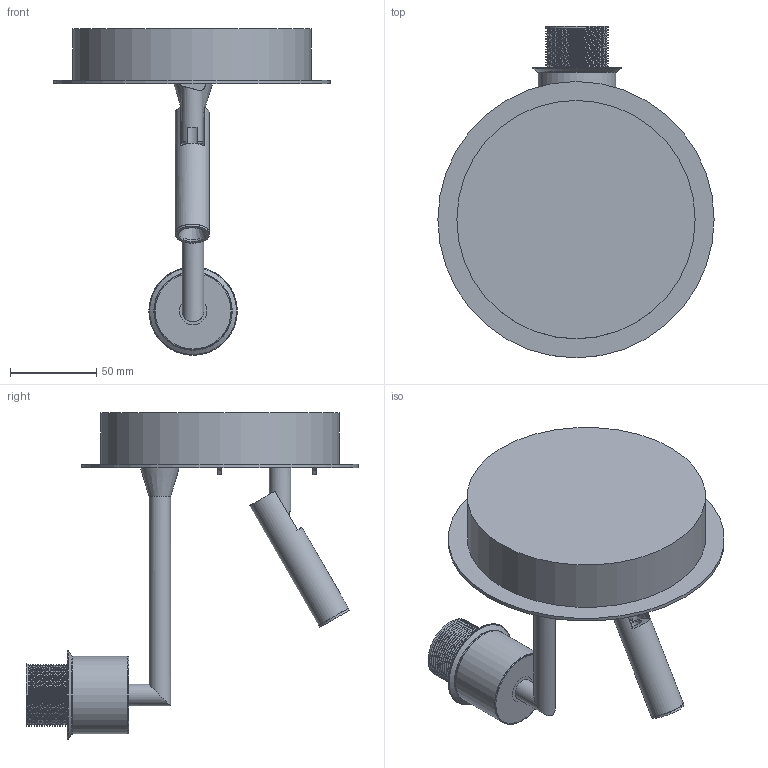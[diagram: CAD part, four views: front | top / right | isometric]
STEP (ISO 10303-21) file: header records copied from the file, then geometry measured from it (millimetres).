
FILE_DESCRIPTION (( 'STEP AP203' ), '1' );
FILE_NAME ('STILO.STEP', '2026-02-06T06:56:11', ( '' ), ( '' ), 'SwSTEP 2.0', 'SolidWorks 2025', '' );
FILE_SCHEMA (( 'CONFIG_CONTROL_DESIGN' ));
Length unit declared in the file: millimetre
Products named in the file (12): switch_默认; tube cap_默认; lamp cup_默认; iron part_默认; spot tube_默认; STILO; L tube_默认; iron part 2_默认; TYPE C_默认; USB_默认; base 1_默认; E27 thread_默认
Assembly tree (12 placements, depth 2):
  STILO
    base 1_默认
    E27 thread_默认
    iron part_默认
    iron part 2_默认
    L tube_默认
    lamp cup_默认
    spot tube_默认
    switch_默认  x2
    tube cap_默认
    TYPE C_默认
    USB_默认
Bounding box: 160 x 192.23 x 189.12 mm (x, y, z)
Volume: 170155.9 mm3; surface area: 144678.1 mm2
Topology: 14 solids, 14 shells, 240 faces, 568 edges, 365 vertices
Faces by surface type: cylinder 110, plane 102, torus 15, bspline 9, cone 4
Full cylindrical faces by diameter (mm): 6 x1, 9.5 x1, 10.5 x27, 12.5 x3, 16 x2, 20 x2, 30 x1, 36 x27, 44 x1, 45 x1, 50.247 x1, 51.247 x1, 134 x1, 138 x1, 160 x1
Entity records: 18001 total; most frequent: CARTESIAN_POINT 13091, DIRECTION 767, ORIENTED_EDGE 674, EDGE_CURVE 337, AXIS2_PLACEMENT_3D 282, VERTEX_POINT 233, EDGE_LOOP 230, VECTOR 203
